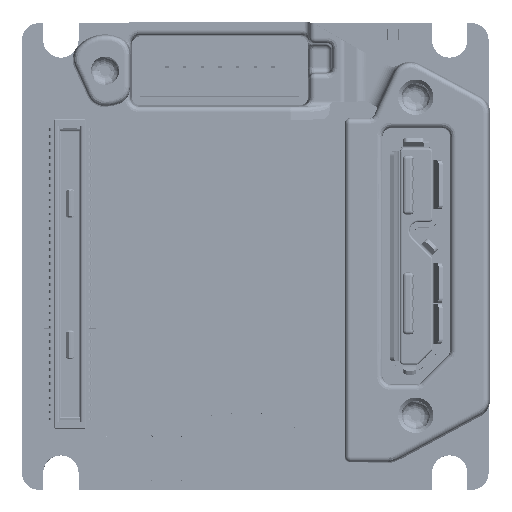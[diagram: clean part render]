
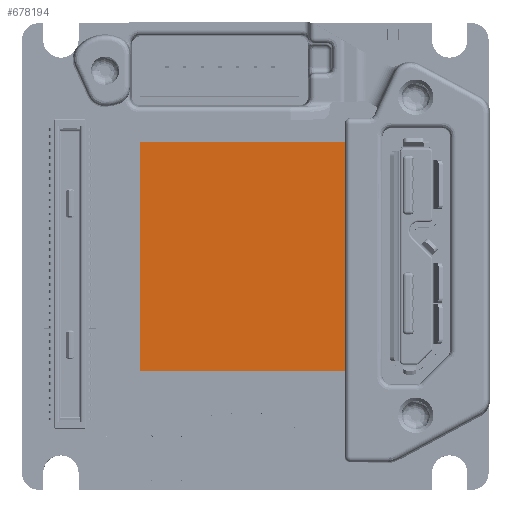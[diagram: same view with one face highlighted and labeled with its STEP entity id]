
A CAD part, top view. The second image highlights one B-rep face of the part: STEP entity #678194.
In plain terms, the highlighted planar face has unit normal (0, 0, 1).
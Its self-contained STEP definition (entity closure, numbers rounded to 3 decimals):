
#10015 = DIRECTION ( 'NONE',  ( 0., 0., -1. ) ) ;
#26610 = EDGE_CURVE ( 'NONE', #457843, #223785, #127939, .T. ) ;
#31765 = ORIENTED_EDGE ( 'NONE', *, *, #556192, .F. ) ;
#69272 = DIRECTION ( 'NONE',  ( 0., -1., 0. ) ) ;
#76720 = DIRECTION ( 'NONE',  ( 0., -1., 0. ) ) ;
#80966 = FACE_OUTER_BOUND ( 'NONE', #594250, .T. ) ;
#90688 = VECTOR ( 'NONE', #76720, 1000. ) ;
#99114 = EDGE_CURVE ( 'NONE', #223785, #713069, #305633, .T. ) ;
#127939 = LINE ( 'NONE', #550081, #652034 ) ;
#128070 = CARTESIAN_POINT ( 'NONE',  ( 6.5, 6.5, 6.162 ) ) ;
#143441 = AXIS2_PLACEMENT_3D ( 'NONE', #191455, #10015, #69272 ) ;
#177211 = VECTOR ( 'NONE', #327607, 1000. ) ;
#191455 = CARTESIAN_POINT ( 'NONE',  ( 0., 0., 6.162 ) ) ;
#195354 = PLANE ( 'NONE',  #143441 ) ;
#223785 = VERTEX_POINT ( 'NONE', #393083 ) ;
#238765 = LINE ( 'NONE', #712396, #340436 ) ;
#254766 = VERTEX_POINT ( 'NONE', #639489 ) ;
#305633 = LINE ( 'NONE', #128070, #90688 ) ;
#317811 = ORIENTED_EDGE ( 'NONE', *, *, #99114, .F. ) ;
#327607 = DIRECTION ( 'NONE',  ( 0., 1., 0. ) ) ;
#337925 = ORIENTED_EDGE ( 'NONE', *, *, #26610, .F. ) ;
#340436 = VECTOR ( 'NONE', #412382, 1000. ) ;
#393083 = CARTESIAN_POINT ( 'NONE',  ( 6.5, 6.5, 6.162 ) ) ;
#412382 = DIRECTION ( 'NONE',  ( -1., 0., 0. ) ) ;
#418628 = LINE ( 'NONE', #544778, #177211 ) ;
#457843 = VERTEX_POINT ( 'NONE', #474461 ) ;
#474461 = CARTESIAN_POINT ( 'NONE',  ( -6.5, 6.5, 6.162 ) ) ;
#544778 = CARTESIAN_POINT ( 'NONE',  ( -6.5, -6.5, 6.162 ) ) ;
#550081 = CARTESIAN_POINT ( 'NONE',  ( -6.5, 6.5, 6.162 ) ) ;
#554635 = ORIENTED_EDGE ( 'NONE', *, *, #625668, .F. ) ;
#556192 = EDGE_CURVE ( 'NONE', #713069, #254766, #238765, .T. ) ;
#594250 = EDGE_LOOP ( 'NONE', ( #31765, #317811, #337925, #554635 ) ) ;
#596129 = CARTESIAN_POINT ( 'NONE',  ( 6.5, -6.5, 6.162 ) ) ;
#613167 = DIRECTION ( 'NONE',  ( 1., 0., 0. ) ) ;
#625668 = EDGE_CURVE ( 'NONE', #254766, #457843, #418628, .T. ) ;
#639489 = CARTESIAN_POINT ( 'NONE',  ( -6.5, -6.5, 6.162 ) ) ;
#652034 = VECTOR ( 'NONE', #613167, 1000. ) ;
#678194 = ADVANCED_FACE ( 'NONE', ( #80966 ), #195354, .F. ) ;
#712396 = CARTESIAN_POINT ( 'NONE',  ( 6.5, -6.5, 6.162 ) ) ;
#713069 = VERTEX_POINT ( 'NONE', #596129 ) ;
